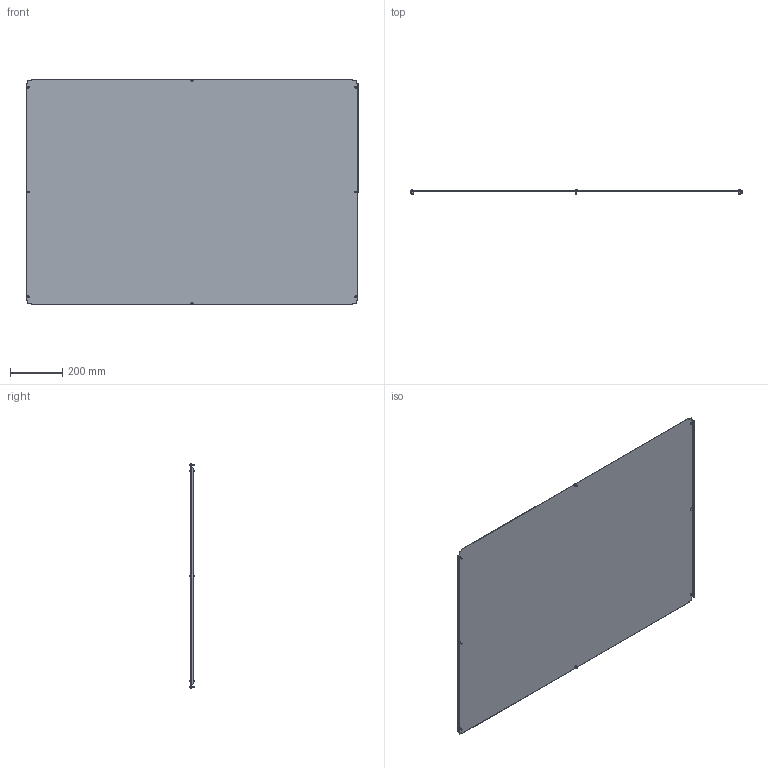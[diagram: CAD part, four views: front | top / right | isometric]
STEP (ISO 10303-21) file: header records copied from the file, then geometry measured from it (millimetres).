
FILE_DESCRIPTION (( 'STEP AP203' ), '1' );
FILE_NAME ('R5N1BP1410.STEP', '2025-02-21T14:02:07', ( '' ), ( '' ), 'SwSTEP 2.0', 'SolidWorks 2022', '' );
FILE_SCHEMA (( 'CONFIG_CONTROL_DESIGN' ));
Length unit declared in the file: millimetre
Products named in the file (3): RB.1923.00.00.0_-32; M5x12 DIN 7500 C Torx Zinc_stright; R5N1BP1410
Assembly tree (9 placements, depth 2):
  R5N1BP1410
    RB.1923.00.00.0_-32
    M5x12 DIN 7500 C Torx Zinc_stright  x8
Bounding box: 1268 x 15.56 x 862 mm (x, y, z)
Volume: 1659863.3 mm3; surface area: 2218727 mm2
Topology: 9 solids, 9 shells, 206 faces, 468 edges, 288 vertices
Faces by surface type: plane 126, cylinder 32, torus 16, cone 16, sphere 8, bspline 8
Full cylindrical faces by diameter (mm): 5 x8, 9.5 x8
Entity records: 3641 total; most frequent: CARTESIAN_POINT 724, ORIENTED_EDGE 496, DIRECTION 496, EDGE_CURVE 248, VECTOR 196, LINE 196, VERTEX_POINT 166, AXIS2_PLACEMENT_3D 150
